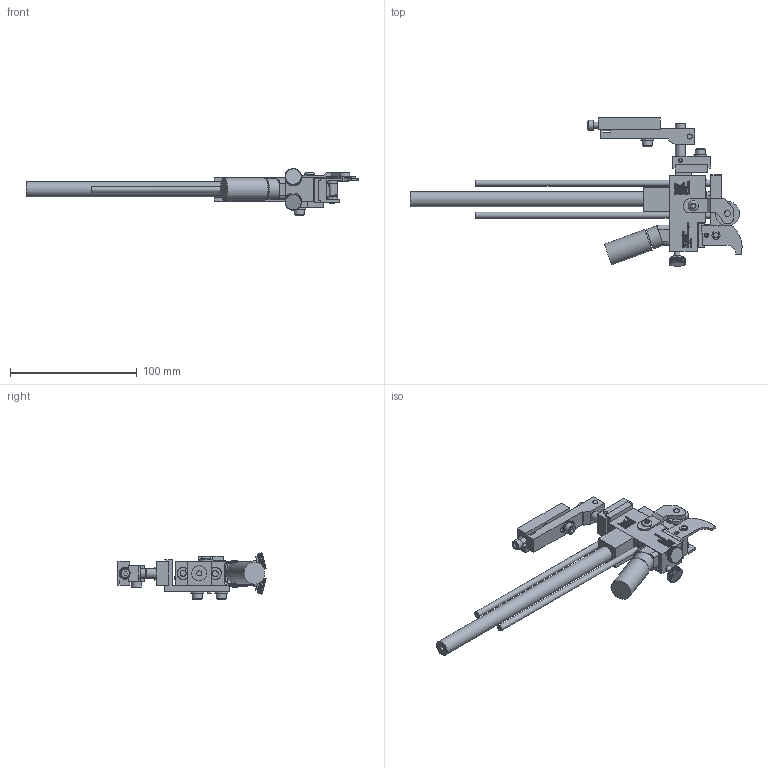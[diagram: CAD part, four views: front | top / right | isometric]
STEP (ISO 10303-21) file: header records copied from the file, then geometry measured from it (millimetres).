
FILE_DESCRIPTION((''),'2;1');
FILE_NAME('C:\Documents and Settings\Ron\My Documents\Inventor\Sprinter Drawing\Machines in Inventor\Model 44\Dot\1-eight\Ext Str\E4\Brkt\Ret\Model 44 E4 .125 dia dot Ret w Brkt.stp','2009-01-26T09:23:16',('Ron'),(''),'Autodesk Inventor 2008','Autodesk Inventor 2008','');
FILE_SCHEMA(('AUTOMOTIVE_DESIGN { 1 0 10303 214 1 1 1 1 }'));
Length unit declared in the file: inch
Products named in the file (1): Model 44 E4 .125 dia dot Ret w Brkt
Bounding box: 262.28 x 117.12 x 36.82 mm (x, y, z)
Volume: 118301 mm3; surface area: 56281 mm2
Topology: 29 solids, 29 shells, 6208 faces, 15421 edges, 9541 vertices
Faces by surface type: plane 4372, bspline 1316, cylinder 469, cone 46, torus 5
Full cylindrical faces by diameter (mm): 3.175 x5, 3.302 x1, 3.962 x1, 4.064 x6, 4.166 x1, 4.699 x1, 4.75 x4, 4.826 x8, 5.144 x1, 5.156 x5, 5.207 x2, 5.41 x2, 6.096 x1, 6.274 x2, 7.239 x1, 7.62 x1, 7.925 x7, 7.938 x1, 8.128 x1, 9.017 x1, 9.525 x2, 10.312 x4, 10.922 x1, 11.036 x1, 11.938 x2, 14.478 x1, 16.256 x1, 17.272 x1, 19.05 x1
Entity records: 197830 total; most frequent: CARTESIAN_POINT 54094, ORIENTED_EDGE 30412, DIRECTION 23648, EDGE_CURVE 15206, VECTOR 11414, LINE 11414, VERTEX_POINT 9478, EDGE_LOOP 6764
